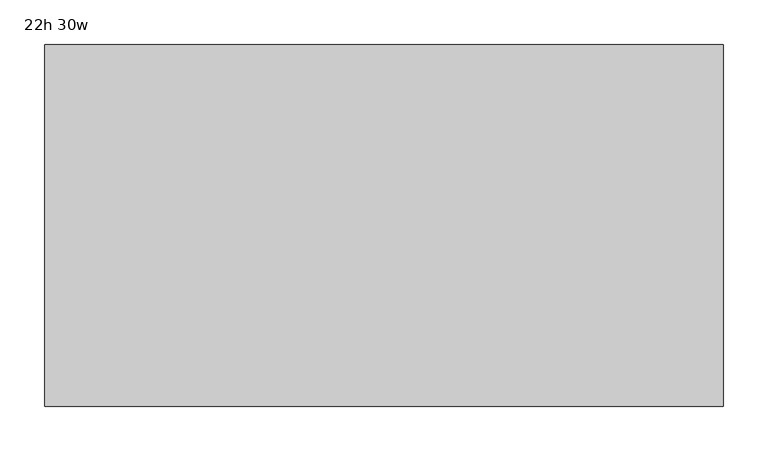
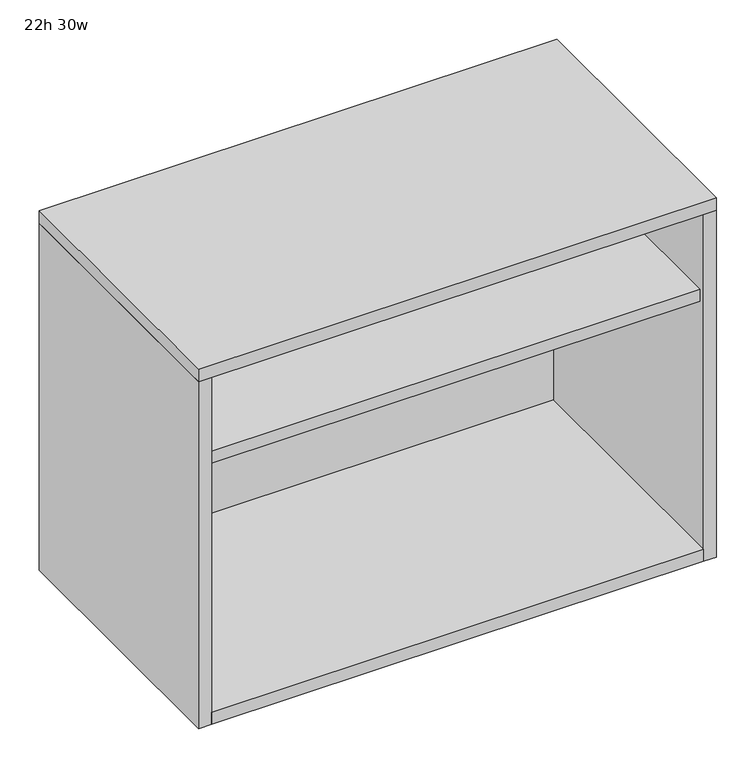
"""IFC4 building model written with IfcOpenShell, lengths in millimetres: furniture geometry, Haworth_BeHold_Bookcase : 22h 30w."""

from ifc_helpers import new_model, si_unit, frame, origin, origin_with_axes, place, context, project, spatial, polyline, outline, extrude, source, transform, mapped, element, save


def furniture_22h_30w_9ee1d05e(model_context):
    return source(origin(), model_context, "Body", "SweptSolid", [
        extrude(outline(polyline([(205.0908447, -98.425), (205.0908447, -485.775), (-518.8091553, -485.775), (-518.8091553, -98.425), (205.0908447, -98.425)])), frame((0.0, 0.0, 398.526), z_axis=(0.0, 0.0, 1.0), x_axis=(1.0, 0.0, 0.0)), (0.0, 0.0, 1.0), 19.05),
        extrude(outline(polyline([(205.0908447, -93.6625), (205.0908447, -112.7125), (-518.8091553, -112.7125), (-518.8091553, -93.6625), (205.0908447, -93.6625)])), frame((0.0, 0.0, 19.05), z_axis=(0.0, 0.0, 1.0), x_axis=(1.0, 0.0, 0.0)), (0.0, 0.0, 1.0), 520.7),
        extrude(outline(polyline([(205.0908447, -88.9), (205.0908447, -495.3), (-518.8091553, -495.3), (-518.8091553, -88.9), (205.0908447, -88.9)])), origin_with_axes(), (0.0, 0.0, 1.0), 19.05),
        extrude(outline(polyline([(224.1408447, -88.9), (224.1408447, -495.3), (-537.8591553, -495.3), (-537.8591553, -88.9), (224.1408447, -88.9)])), frame((0.0, 0.0, 539.75), z_axis=(0.0, 0.0, 1.0), x_axis=(1.0, 0.0, 0.0)), (0.0, 0.0, 1.0), 19.05),
        extrude(outline(polyline([(-518.8091553, -88.9), (-518.8091553, -495.3), (-537.8591553, -495.3), (-537.8591553, -88.9), (-518.8091553, -88.9)])), origin_with_axes(), (0.0, 0.0, 1.0), 539.75),
        extrude(outline(polyline([(205.0908447, -495.3), (205.0908447, -88.9), (224.1408447, -88.9), (224.1408447, -495.3), (205.0908447, -495.3)])), origin_with_axes(), (0.0, 0.0, 1.0), 539.75),
    ])


if __name__ == "__main__":
    model = new_model("IFC4")
    model_context = context("Model", 3, world=origin())
    ifc_project = project(units=[si_unit("LENGTHUNIT", "METRE", prefix="MILLI")], contexts=[model_context])
    site = spatial("IfcSite", under=ifc_project)
    building = spatial("IfcBuilding", under=site)
    placement = place(None, origin())
    furniture_22h_30w_shape = furniture_22h_30w_9ee1d05e(model_context)
    element("IfcFurniture", 1, ObjectType="Haworth_BeHold_Bookcase : 22h 30w", at=placement, inside=building, context=model_context, shape_type="MappedRepresentation", body=[
        mapped(furniture_22h_30w_shape, transform((0.0, 0.0, 0.0), x_axis=(1.0, 0.0, 0.0), y_axis=(0.0, 1.0, 0.0), z_axis=(0.0, 0.0, 1.0))),
    ])
    save(model, "model.ifc")
